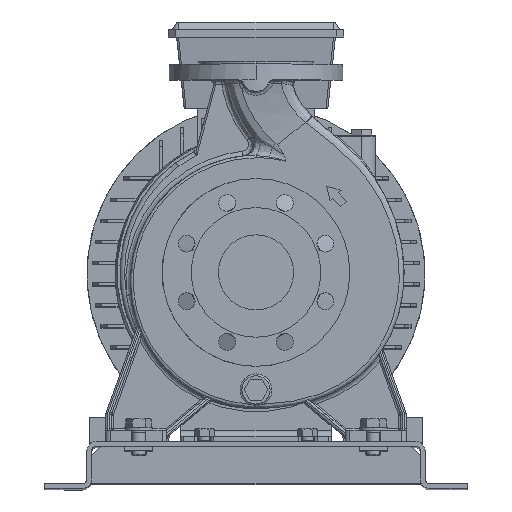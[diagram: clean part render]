
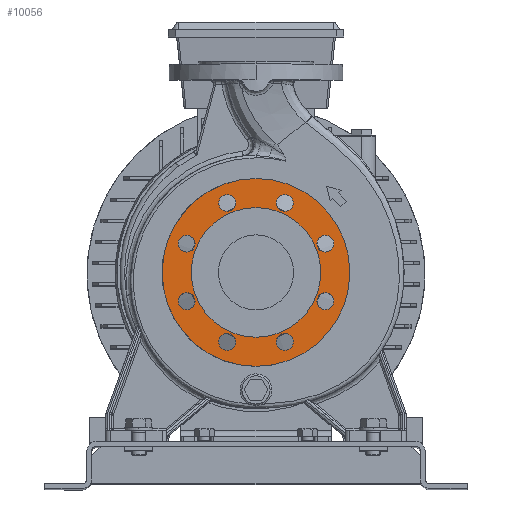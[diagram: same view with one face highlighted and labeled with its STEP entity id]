
A CAD part, top view. The second image highlights one B-rep face of the part: STEP entity #10056.
In plain terms, the highlighted planar face has unit normal (0, 0, 1).
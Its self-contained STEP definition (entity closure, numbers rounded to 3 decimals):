
#479=CARTESIAN_POINT('',(0.,0.,97.));
#480=DIRECTION('',(0.,0.,1.));
#481=DIRECTION('',(0.,1.,0.));
#482=AXIS2_PLACEMENT_3D('',#479,#480,#481);
#487=CARTESIAN_POINT('',(0.,0.,97.));
#488=DIRECTION('',(0.,0.,-1.));
#489=DIRECTION('',(0.,1.,0.));
#490=AXIS2_PLACEMENT_3D('',#487,#488,#489);
#495=CARTESIAN_POINT('',(-30.615,73.91,97.));
#496=DIRECTION('',(0.,0.,-1.));
#497=DIRECTION('',(-1.,0.,0.));
#498=AXIS2_PLACEMENT_3D('',#495,#496,#497);
#503=CARTESIAN_POINT('',(-30.615,73.91,97.));
#504=DIRECTION('',(0.,0.,-1.));
#505=DIRECTION('',(1.,0.,0.));
#506=AXIS2_PLACEMENT_3D('',#503,#504,#505);
#511=CARTESIAN_POINT('',(-73.91,30.615,97.));
#512=DIRECTION('',(0.,0.,-1.));
#513=DIRECTION('',(-1.,0.,0.));
#514=AXIS2_PLACEMENT_3D('',#511,#512,#513);
#519=CARTESIAN_POINT('',(-73.91,30.615,97.));
#520=DIRECTION('',(0.,0.,-1.));
#521=DIRECTION('',(1.,0.,0.));
#522=AXIS2_PLACEMENT_3D('',#519,#520,#521);
#527=CARTESIAN_POINT('',(-73.91,-30.615,97.));
#528=DIRECTION('',(0.,0.,-1.));
#529=DIRECTION('',(-1.,0.,0.));
#530=AXIS2_PLACEMENT_3D('',#527,#528,#529);
#535=CARTESIAN_POINT('',(-73.91,-30.615,97.));
#536=DIRECTION('',(0.,0.,-1.));
#537=DIRECTION('',(1.,0.,0.));
#538=AXIS2_PLACEMENT_3D('',#535,#536,#537);
#543=CARTESIAN_POINT('',(-30.615,-73.91,97.));
#544=DIRECTION('',(0.,0.,-1.));
#545=DIRECTION('',(-1.,0.,0.));
#546=AXIS2_PLACEMENT_3D('',#543,#544,#545);
#551=CARTESIAN_POINT('',(-30.615,-73.91,97.));
#552=DIRECTION('',(0.,0.,-1.));
#553=DIRECTION('',(1.,0.,0.));
#554=AXIS2_PLACEMENT_3D('',#551,#552,#553);
#559=CARTESIAN_POINT('',(30.615,-73.91,97.));
#560=DIRECTION('',(0.,0.,-1.));
#561=DIRECTION('',(-1.,0.,0.));
#562=AXIS2_PLACEMENT_3D('',#559,#560,#561);
#567=CARTESIAN_POINT('',(30.615,-73.91,97.));
#568=DIRECTION('',(0.,0.,-1.));
#569=DIRECTION('',(1.,0.,0.));
#570=AXIS2_PLACEMENT_3D('',#567,#568,#569);
#575=CARTESIAN_POINT('',(73.91,-30.615,97.));
#576=DIRECTION('',(0.,0.,-1.));
#577=DIRECTION('',(-1.,0.,0.));
#578=AXIS2_PLACEMENT_3D('',#575,#576,#577);
#583=CARTESIAN_POINT('',(73.91,-30.615,97.));
#584=DIRECTION('',(0.,0.,-1.));
#585=DIRECTION('',(1.,0.,0.));
#586=AXIS2_PLACEMENT_3D('',#583,#584,#585);
#591=CARTESIAN_POINT('',(73.91,30.615,97.));
#592=DIRECTION('',(0.,0.,-1.));
#593=DIRECTION('',(-1.,0.,0.));
#594=AXIS2_PLACEMENT_3D('',#591,#592,#593);
#599=CARTESIAN_POINT('',(73.91,30.615,97.));
#600=DIRECTION('',(0.,0.,-1.));
#601=DIRECTION('',(1.,0.,0.));
#602=AXIS2_PLACEMENT_3D('',#599,#600,#601);
#607=CARTESIAN_POINT('',(30.615,73.91,97.));
#608=DIRECTION('',(0.,0.,-1.));
#609=DIRECTION('',(-1.,0.,0.));
#610=AXIS2_PLACEMENT_3D('',#607,#608,#609);
#615=CARTESIAN_POINT('',(30.615,73.91,97.));
#616=DIRECTION('',(0.,0.,-1.));
#617=DIRECTION('',(1.,0.,0.));
#618=AXIS2_PLACEMENT_3D('',#615,#616,#617);
#8578=CARTESIAN_POINT('',(0.,0.,97.));
#8579=DIRECTION('',(0.,0.,-1.));
#8580=DIRECTION('',(0.,1.,0.));
#8581=AXIS2_PLACEMENT_3D('',#8578,#8579,#8580);
#8593=CARTESIAN_POINT('',(0.,0.,97.));
#8594=DIRECTION('',(0.,0.,1.));
#8595=DIRECTION('',(0.,1.,0.));
#8596=AXIS2_PLACEMENT_3D('',#8593,#8594,#8595);
#8812=CARTESIAN_POINT('',(0.,100.,97.));
#8814=VERTEX_POINT('',#8812);
#8815=CARTESIAN_POINT('',(0.,69.,97.));
#8817=VERTEX_POINT('',#8815);
#8826=CARTESIAN_POINT('',(0.,-100.,97.));
#8828=VERTEX_POINT('',#8826);
#8829=CARTESIAN_POINT('',(0.,-69.,97.));
#8831=VERTEX_POINT('',#8829);
#8967=CARTESIAN_POINT('',(-39.615,73.91,97.));
#8968=CARTESIAN_POINT('',(-21.615,73.91,97.));
#8969=VERTEX_POINT('',#8967);
#8970=VERTEX_POINT('',#8968);
#8977=CARTESIAN_POINT('',(-82.91,30.615,97.));
#8978=CARTESIAN_POINT('',(-64.91,30.615,97.));
#8979=VERTEX_POINT('',#8977);
#8980=VERTEX_POINT('',#8978);
#8989=CARTESIAN_POINT('',(-82.91,-30.615,97.));
#8990=CARTESIAN_POINT('',(-64.91,-30.615,97.));
#8991=VERTEX_POINT('',#8989);
#8992=VERTEX_POINT('',#8990);
#9001=CARTESIAN_POINT('',(-39.615,-73.91,97.));
#9002=CARTESIAN_POINT('',(-21.615,-73.91,97.));
#9003=VERTEX_POINT('',#9001);
#9004=VERTEX_POINT('',#9002);
#9735=CARTESIAN_POINT('',(21.615,-73.91,97.));
#9736=CARTESIAN_POINT('',(39.615,-73.91,97.));
#9737=VERTEX_POINT('',#9735);
#9738=VERTEX_POINT('',#9736);
#9745=CARTESIAN_POINT('',(64.91,-30.615,97.));
#9746=CARTESIAN_POINT('',(82.91,-30.615,97.));
#9747=VERTEX_POINT('',#9745);
#9748=VERTEX_POINT('',#9746);
#9757=CARTESIAN_POINT('',(64.91,30.615,97.));
#9758=CARTESIAN_POINT('',(82.91,30.615,97.));
#9759=VERTEX_POINT('',#9757);
#9760=VERTEX_POINT('',#9758);
#9771=CARTESIAN_POINT('',(21.615,73.91,97.));
#9772=CARTESIAN_POINT('',(39.615,73.91,97.));
#9773=VERTEX_POINT('',#9771);
#9774=VERTEX_POINT('',#9772);
#9993=CARTESIAN_POINT('',(0.,0.,97.));
#9994=DIRECTION('',(0.,0.,1.));
#9995=DIRECTION('',(0.,1.,0.));
#9996=AXIS2_PLACEMENT_3D('',#9993,#9994,#9995);
#9997=PLANE('',#9996);
#9999=ORIENTED_EDGE('',*,*,#9998,.F.);
#10001=ORIENTED_EDGE('',*,*,#10000,.T.);
#10002=EDGE_LOOP('',(#9999,#10001));
#10003=FACE_OUTER_BOUND('',#10002,.F.);
#10005=ORIENTED_EDGE('',*,*,#10004,.F.);
#10007=ORIENTED_EDGE('',*,*,#10006,.T.);
#10008=EDGE_LOOP('',(#10005,#10007));
#10009=FACE_BOUND('',#10008,.F.);
#10011=ORIENTED_EDGE('',*,*,#10010,.F.);
#10013=ORIENTED_EDGE('',*,*,#10012,.F.);
#10014=EDGE_LOOP('',(#10011,#10013));
#10015=FACE_BOUND('',#10014,.F.);
#10017=ORIENTED_EDGE('',*,*,#10016,.F.);
#10019=ORIENTED_EDGE('',*,*,#10018,.F.);
#10020=EDGE_LOOP('',(#10017,#10019));
#10021=FACE_BOUND('',#10020,.F.);
#10022=ORIENTED_EDGE('',*,*,#9986,.F.);
#10023=ORIENTED_EDGE('',*,*,#9786,.F.);
#10024=EDGE_LOOP('',(#10022,#10023));
#10025=FACE_BOUND('',#10024,.F.);
#10027=ORIENTED_EDGE('',*,*,#10026,.F.);
#10029=ORIENTED_EDGE('',*,*,#10028,.F.);
#10030=EDGE_LOOP('',(#10027,#10029));
#10031=FACE_BOUND('',#10030,.F.);
#10033=ORIENTED_EDGE('',*,*,#10032,.F.);
#10035=ORIENTED_EDGE('',*,*,#10034,.F.);
#10036=EDGE_LOOP('',(#10033,#10035));
#10037=FACE_BOUND('',#10036,.F.);
#10039=ORIENTED_EDGE('',*,*,#10038,.F.);
#10041=ORIENTED_EDGE('',*,*,#10040,.F.);
#10042=EDGE_LOOP('',(#10039,#10041));
#10043=FACE_BOUND('',#10042,.F.);
#10045=ORIENTED_EDGE('',*,*,#10044,.F.);
#10047=ORIENTED_EDGE('',*,*,#10046,.F.);
#10048=EDGE_LOOP('',(#10045,#10047));
#10049=FACE_BOUND('',#10048,.F.);
#10051=ORIENTED_EDGE('',*,*,#10050,.F.);
#10053=ORIENTED_EDGE('',*,*,#10052,.F.);
#10054=EDGE_LOOP('',(#10051,#10053));
#10055=FACE_BOUND('',#10054,.F.);
#483=CIRCLE('',#482,100.);
#491=CIRCLE('',#490,100.);
#499=CIRCLE('',#498,9.);
#507=CIRCLE('',#506,9.);
#515=CIRCLE('',#514,9.);
#523=CIRCLE('',#522,9.);
#531=CIRCLE('',#530,9.);
#539=CIRCLE('',#538,9.);
#547=CIRCLE('',#546,9.);
#555=CIRCLE('',#554,9.);
#563=CIRCLE('',#562,9.);
#571=CIRCLE('',#570,9.);
#579=CIRCLE('',#578,9.);
#587=CIRCLE('',#586,9.);
#595=CIRCLE('',#594,9.);
#603=CIRCLE('',#602,9.);
#611=CIRCLE('',#610,9.);
#619=CIRCLE('',#618,9.);
#8582=CIRCLE('',#8581,69.);
#8597=CIRCLE('',#8596,69.);
#9786=EDGE_CURVE('',#8992,#8991,#539,.T.);
#9986=EDGE_CURVE('',#8991,#8992,#531,.T.);
#9998=EDGE_CURVE('',#8814,#8828,#483,.T.);
#10000=EDGE_CURVE('',#8814,#8828,#491,.T.);
#10004=EDGE_CURVE('',#8817,#8831,#8582,.T.);
#10006=EDGE_CURVE('',#8817,#8831,#8597,.T.);
#10010=EDGE_CURVE('',#8969,#8970,#499,.T.);
#10012=EDGE_CURVE('',#8970,#8969,#507,.T.);
#10016=EDGE_CURVE('',#8979,#8980,#515,.T.);
#10018=EDGE_CURVE('',#8980,#8979,#523,.T.);
#10026=EDGE_CURVE('',#9003,#9004,#547,.T.);
#10028=EDGE_CURVE('',#9004,#9003,#555,.T.);
#10032=EDGE_CURVE('',#9737,#9738,#563,.T.);
#10034=EDGE_CURVE('',#9738,#9737,#571,.T.);
#10038=EDGE_CURVE('',#9747,#9748,#579,.T.);
#10040=EDGE_CURVE('',#9748,#9747,#587,.T.);
#10044=EDGE_CURVE('',#9759,#9760,#595,.T.);
#10046=EDGE_CURVE('',#9760,#9759,#603,.T.);
#10050=EDGE_CURVE('',#9773,#9774,#611,.T.);
#10052=EDGE_CURVE('',#9774,#9773,#619,.T.);
#10056=ADVANCED_FACE('',(#10003,#10009,#10015,#10021,#10025,#10031,#10037,
#10043,#10049,#10055),#9997,.T.);
